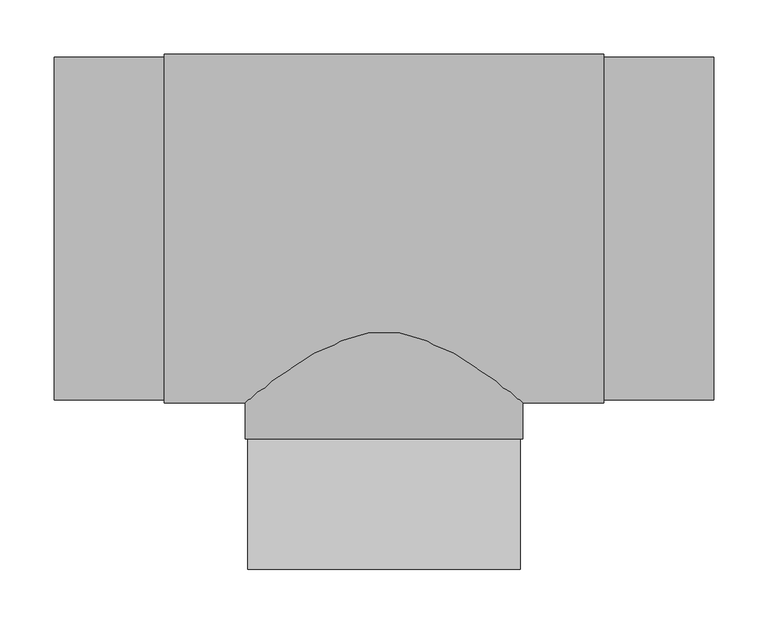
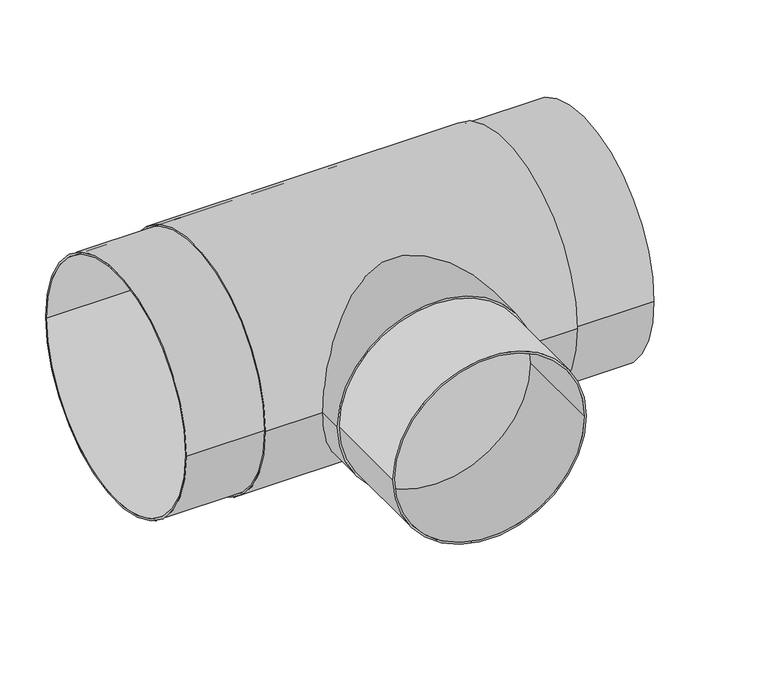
"""IFC4 building model written with IfcOpenShell, lengths in millimetres: pipe fitting geometry, EGB_VASEN_ PPR_Te a tope WXRB300_Te reducida a tope WXRB310 : Te a tope."""

from ifc_helpers import new_model, si_unit, point, frame, origin, origin_2d, place, context, project, spatial, circle_curve, trimmed, segment, composite_curve, outline, extrude, source, transform, mapped, element, save


def pipe_fitting_d493c019(model_context):
    return source(origin(), model_context, "Body", "SweptSolid", [
        extrude(outline(composite_curve([segment(trimmed(circle_curve(origin_2d(), 125.0), [point((0.0, 125.0))], [point((0.0, -125.0))], False, "CARTESIAN"), True, "CONTINUOUS"), segment(trimmed(circle_curve(origin_2d(), 125.0), [point((0.0, -125.0))], [point((0.0, 125.0))], False, "CARTESIAN"), True, "CONTINUOUS")], self_intersect=False), holes=[composite_curve([segment(trimmed(circle_curve(origin_2d(), 122.5), [point((0.0, 122.5))], [point((0.0, -122.5))], True, "CARTESIAN"), True, "CONTINUOUS"), segment(trimmed(circle_curve(origin_2d(), 122.5), [point((0.0, -122.5))], [point((0.0, 122.5))], True, "CARTESIAN"), True, "CONTINUOUS")], self_intersect=False)]), frame((0.0, -313.0, 0.0), z_axis=(0.0, 1.0, 0.0), x_axis=(0.0, 0.0, 1.0)), (0.0, 0.0, 1.0), 120.0),
        extrude(outline(composite_curve([segment(trimmed(circle_curve(origin_2d(), 127.5), [point((0.0, 127.5))], [point((0.0, -127.5))], False, "CARTESIAN"), True, "CONTINUOUS"), segment(trimmed(circle_curve(origin_2d(), 127.5), [point((0.0, -127.5))], [point((0.0, 127.5))], False, "CARTESIAN"), True, "CONTINUOUS")], self_intersect=False)), frame((0.0, -193.0, 0.0), z_axis=(0.0, 1.0, 0.0), x_axis=(0.0, 0.0, 1.0)), (0.0, 0.0, 1.0), 193.0),
        extrude(outline(composite_curve([segment(trimmed(circle_curve(origin_2d(), 160.0), [point((-160.0, 0.0))], [point((160.0, 0.0))], False, "CARTESIAN"), True, "CONTINUOUS"), segment(trimmed(circle_curve(origin_2d(), 160.0), [point((160.0, 0.0))], [point((-160.0, 0.0))], False, "CARTESIAN"), True, "CONTINUOUS")], self_intersect=False), holes=[composite_curve([segment(trimmed(circle_curve(origin_2d(), 157.5), [point((-157.5, 0.0))], [point((157.5, 0.0))], True, "CARTESIAN"), True, "CONTINUOUS"), segment(trimmed(circle_curve(origin_2d(), 157.5), [point((157.5, 0.0))], [point((-157.5, 0.0))], True, "CARTESIAN"), True, "CONTINUOUS")], self_intersect=False)]), frame((-201.6666667, 0.0, 0.0), z_axis=(1.0, 0.0, 0.0), x_axis=(0.0, 1.0, 0.0)), (0.0, 0.0, 1.0), 403.3333333),
        extrude(outline(composite_curve([segment(trimmed(circle_curve(origin_2d(), 157.5), [point((-157.5, 0.0))], [point((157.5, 0.0))], False, "CARTESIAN"), True, "CONTINUOUS"), segment(trimmed(circle_curve(origin_2d(), 157.5), [point((157.5, 0.0))], [point((-157.5, 0.0))], False, "CARTESIAN"), True, "CONTINUOUS")], self_intersect=False), holes=[composite_curve([segment(trimmed(circle_curve(origin_2d(), 155.0), [point((-155.0, 0.0))], [point((155.0, 0.0))], True, "CARTESIAN"), True, "CONTINUOUS"), segment(trimmed(circle_curve(origin_2d(), 155.0), [point((155.0, 0.0))], [point((-155.0, 0.0))], True, "CARTESIAN"), True, "CONTINUOUS")], self_intersect=False)]), frame((-302.5, 0.0, 0.0), z_axis=(1.0, 0.0, 0.0), x_axis=(0.0, 1.0, 0.0)), (0.0, 0.0, 1.0), 605.0),
    ])


if __name__ == "__main__":
    model = new_model("IFC4")
    model_context = context("Model", 3, world=origin())
    ifc_project = project(units=[si_unit("LENGTHUNIT", "METRE", prefix="MILLI")], contexts=[model_context])
    site = spatial("IfcSite", under=ifc_project)
    building = spatial("IfcBuilding", under=site)
    placement = place(None, origin())
    pipe_fitting_shape = pipe_fitting_d493c019(model_context)
    element("IfcPipeFitting", 1, ObjectType="EGB_VASEN_ PPR_Te a tope WXRB300_Te reducida a tope WXRB310 : Te a tope", at=placement, inside=building, context=model_context, shape_type="MappedRepresentation", body=[
        mapped(pipe_fitting_shape, transform((0.0, 0.0, 0.0), x_axis=(1.0, 0.0, 0.0), y_axis=(0.0, 1.0, 0.0), z_axis=(0.0, 0.0, 1.0))),
    ])
    save(model, "model.ifc")
